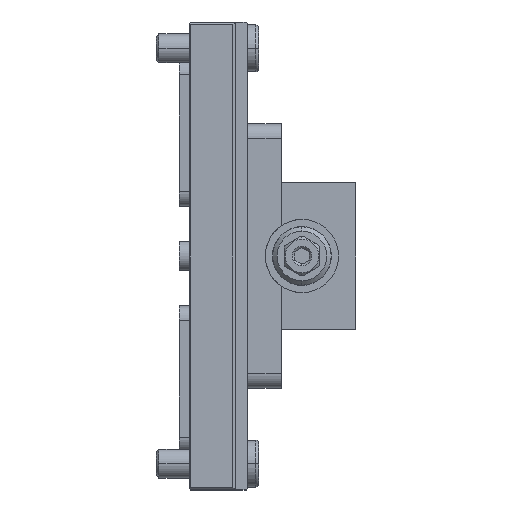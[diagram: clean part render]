
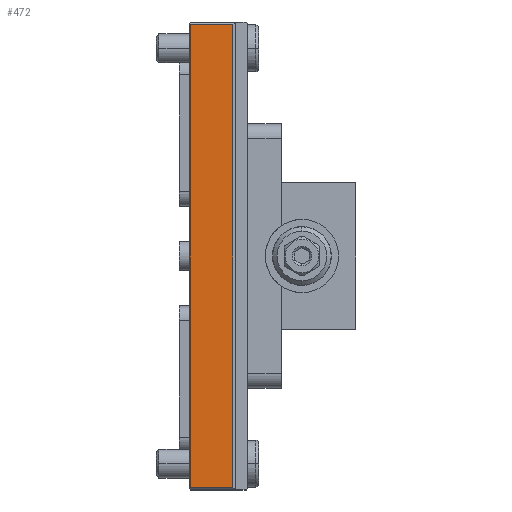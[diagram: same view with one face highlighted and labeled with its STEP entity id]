
A CAD part, left-side view. The second image highlights one B-rep face of the part: STEP entity #472.
In plain terms, the highlighted planar face has unit normal (-1, 0, 0).
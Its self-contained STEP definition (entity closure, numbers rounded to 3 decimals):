
#324 = EDGE_CURVE ( 'NONE', #10145, #14532, #14304, .T. ) ;
#472 = ADVANCED_FACE ( 'NONE', ( #8282 ), #3172, .T. ) ;
#1220 = CARTESIAN_POINT ( 'NONE',  ( -28.5, 38.1, 79. ) ) ;
#2269 = ORIENTED_EDGE ( 'NONE', *, *, #14741, .T. ) ;
#2372 = DIRECTION ( 'NONE',  ( 0., -1., 0. ) ) ;
#2678 = AXIS2_PLACEMENT_3D ( 'NONE', #8036, #14700, #12115 ) ;
#3093 = ORIENTED_EDGE ( 'NONE', *, *, #12342, .T. ) ;
#3172 = PLANE ( 'NONE',  #2678 ) ;
#3726 = LINE ( 'NONE', #6129, #12834 ) ;
#3764 = CARTESIAN_POINT ( 'NONE',  ( -28.5, 23.6, -79. ) ) ;
#4480 = EDGE_LOOP ( 'NONE', ( #3093, #9362, #13574, #2269 ) ) ;
#4669 = CARTESIAN_POINT ( 'NONE',  ( -28.5, 38.1, -80. ) ) ;
#4909 = LINE ( 'NONE', #4669, #9419 ) ;
#5368 = DIRECTION ( 'NONE',  ( 0., 1., 0. ) ) ;
#5567 = EDGE_CURVE ( 'NONE', #14532, #7175, #4909, .T. ) ;
#6129 = CARTESIAN_POINT ( 'NONE',  ( -28.5, 19.1, -79. ) ) ;
#7175 = VERTEX_POINT ( 'NONE', #12400 ) ;
#8036 = CARTESIAN_POINT ( 'NONE',  ( -28.5, 38.6, 80. ) ) ;
#8282 = FACE_OUTER_BOUND ( 'NONE', #4480, .T. ) ;
#8569 = CARTESIAN_POINT ( 'NONE',  ( -28.5, 23.6, -80. ) ) ;
#9362 = ORIENTED_EDGE ( 'NONE', *, *, #324, .T. ) ;
#9419 = VECTOR ( 'NONE', #11266, 1000. ) ;
#9829 = LINE ( 'NONE', #8569, #10640 ) ;
#9919 = DIRECTION ( 'NONE',  ( 0., 0., 1. ) ) ;
#10145 = VERTEX_POINT ( 'NONE', #13209 ) ;
#10640 = VECTOR ( 'NONE', #9919, 1000. ) ;
#11266 = DIRECTION ( 'NONE',  ( 0., 0., -1. ) ) ;
#11270 = VECTOR ( 'NONE', #5368, 1000. ) ;
#11543 = CARTESIAN_POINT ( 'NONE',  ( -28.5, 38.1, 79. ) ) ;
#12115 = DIRECTION ( 'NONE',  ( 0., 0., 1. ) ) ;
#12342 = EDGE_CURVE ( 'NONE', #13059, #10145, #9829, .T. ) ;
#12400 = CARTESIAN_POINT ( 'NONE',  ( -28.5, 38.1, -79. ) ) ;
#12834 = VECTOR ( 'NONE', #2372, 1000. ) ;
#13059 = VERTEX_POINT ( 'NONE', #3764 ) ;
#13209 = CARTESIAN_POINT ( 'NONE',  ( -28.5, 23.6, 79. ) ) ;
#13574 = ORIENTED_EDGE ( 'NONE', *, *, #5567, .T. ) ;
#14304 = LINE ( 'NONE', #11543, #11270 ) ;
#14532 = VERTEX_POINT ( 'NONE', #1220 ) ;
#14700 = DIRECTION ( 'NONE',  ( -1., 0., 0. ) ) ;
#14741 = EDGE_CURVE ( 'NONE', #7175, #13059, #3726, .T. ) ;
